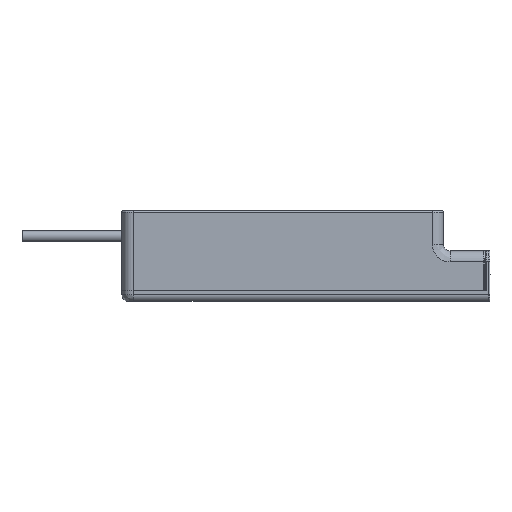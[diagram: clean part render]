
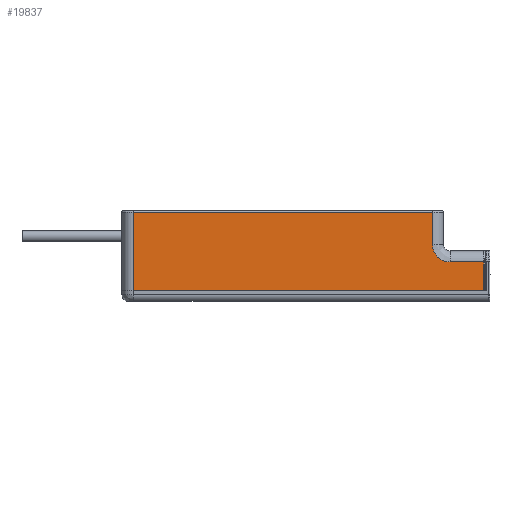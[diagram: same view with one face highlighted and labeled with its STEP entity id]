
A CAD part, front view. The second image highlights one B-rep face of the part: STEP entity #19837.
In plain terms, the highlighted planar face has unit normal (0, -1, 0).
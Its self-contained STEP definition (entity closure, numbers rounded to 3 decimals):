
#927 = VERTEX_POINT ( 'NONE', #1373 ) ;
#1045 = ORIENTED_EDGE ( 'NONE', *, *, #3235, .F. ) ;
#1312 = DIRECTION ( 'NONE',  ( -1., 0., 0. ) ) ;
#1373 = CARTESIAN_POINT ( 'NONE',  ( 67.445, -35.194, 40.564 ) ) ;
#1694 = VECTOR ( 'NONE', #17261, 1000. ) ;
#2393 = VERTEX_POINT ( 'NONE', #14187 ) ;
#2558 = VERTEX_POINT ( 'NONE', #6202 ) ;
#2709 = ORIENTED_EDGE ( 'NONE', *, *, #4259, .F. ) ;
#3052 = AXIS2_PLACEMENT_3D ( 'NONE', #21447, #3377, #1312 ) ;
#3188 = VECTOR ( 'NONE', #17861, 1000. ) ;
#3235 = EDGE_CURVE ( 'NONE', #18754, #2393, #17842, .T. ) ;
#3377 = DIRECTION ( 'NONE',  ( 0., 1., 0. ) ) ;
#3783 = EDGE_CURVE ( 'NONE', #2393, #19304, #6517, .T. ) ;
#4259 = EDGE_CURVE ( 'NONE', #2558, #18754, #18596, .T. ) ;
#4961 = CARTESIAN_POINT ( 'NONE',  ( 75.445, -35.194, 18.064 ) ) ;
#4994 = CARTESIAN_POINT ( 'NONE',  ( 90.645, -35.194, 41.064 ) ) ;
#5063 =( BOUNDED_CURVE ( )  B_SPLINE_CURVE ( 3, ( #15852, #15696, #19228, #4961 ),
 .UNSPECIFIED., .F., .F. ) 
 B_SPLINE_CURVE_WITH_KNOTS ( ( 4, 4 ),
 ( 0., 1. ),
 .UNSPECIFIED. ) 
 CURVE ( )  GEOMETRIC_REPRESENTATION_ITEM ( )  RATIONAL_B_SPLINE_CURVE ( ( 1., 0.805, 0.805, 1. ) ) 
 REPRESENTATION_ITEM ( '' )  );
#5513 = CARTESIAN_POINT ( 'NONE',  ( 67.445, -35.194, 26.064 ) ) ;
#5915 = ORIENTED_EDGE ( 'NONE', *, *, #18467, .F. ) ;
#6202 = CARTESIAN_POINT ( 'NONE',  ( 75.445, -35.194, 18.064 ) ) ;
#6517 = LINE ( 'NONE', #6564, #14662 ) ;
#6564 = CARTESIAN_POINT ( 'NONE',  ( -90.014, -35.194, 5.164 ) ) ;
#6607 = CARTESIAN_POINT ( 'NONE',  ( -72.555, -35.194, 18.064 ) ) ;
#7521 = CARTESIAN_POINT ( 'NONE',  ( -67.555, -35.194, 5.164 ) ) ;
#7600 = VECTOR ( 'NONE', #9184, 1000. ) ;
#8679 = ORIENTED_EDGE ( 'NONE', *, *, #3783, .F. ) ;
#9184 = DIRECTION ( 'NONE',  ( 0., 0., 1. ) ) ;
#9840 = LINE ( 'NONE', #18591, #13815 ) ;
#10770 = CARTESIAN_POINT ( 'NONE',  ( -67.555, -35.194, 41.064 ) ) ;
#10774 = EDGE_CURVE ( 'NONE', #10864, #2558, #5063, .T. ) ;
#10775 = VECTOR ( 'NONE', #11635, 1000. ) ;
#10864 = VERTEX_POINT ( 'NONE', #5513 ) ;
#11635 = DIRECTION ( 'NONE',  ( 0., 0., -1. ) ) ;
#11657 = LINE ( 'NONE', #14445, #3188 ) ;
#12695 = ORIENTED_EDGE ( 'NONE', *, *, #10774, .F. ) ;
#13815 = VECTOR ( 'NONE', #18510, 1000. ) ;
#13838 = ORIENTED_EDGE ( 'NONE', *, *, #22628, .F. ) ;
#14187 = CARTESIAN_POINT ( 'NONE',  ( 90.645, -35.194, 5.164 ) ) ;
#14445 = CARTESIAN_POINT ( 'NONE',  ( -72.555, -35.194, 40.564 ) ) ;
#14628 = CARTESIAN_POINT ( 'NONE',  ( -67.555, -35.194, 40.564 ) ) ;
#14662 = VECTOR ( 'NONE', #19152, 1000. ) ;
#15130 = VERTEX_POINT ( 'NONE', #14628 ) ;
#15696 = CARTESIAN_POINT ( 'NONE',  ( 67.445, -35.194, 21.377 ) ) ;
#15852 = CARTESIAN_POINT ( 'NONE',  ( 67.445, -35.194, 26.064 ) ) ;
#17261 = DIRECTION ( 'NONE',  ( 1., 0., 0. ) ) ;
#17505 = PLANE ( 'NONE',  #3052 ) ;
#17842 = LINE ( 'NONE', #4994, #10775 ) ;
#17861 = DIRECTION ( 'NONE',  ( 1., 0., 0. ) ) ;
#17892 = EDGE_CURVE ( 'NONE', #19304, #15130, #20293, .T. ) ;
#18054 = CARTESIAN_POINT ( 'NONE',  ( 90.645, -35.194, 18.064 ) ) ;
#18305 = ORIENTED_EDGE ( 'NONE', *, *, #17892, .F. ) ;
#18467 = EDGE_CURVE ( 'NONE', #927, #10864, #9840, .T. ) ;
#18510 = DIRECTION ( 'NONE',  ( 0., 0., -1. ) ) ;
#18591 = CARTESIAN_POINT ( 'NONE',  ( 67.445, -35.194, 41.064 ) ) ;
#18596 = LINE ( 'NONE', #6607, #1694 ) ;
#18754 = VERTEX_POINT ( 'NONE', #18054 ) ;
#18838 = EDGE_LOOP ( 'NONE', ( #12695, #5915, #13838, #18305, #8679, #1045, #2709 ) ) ;
#19152 = DIRECTION ( 'NONE',  ( -1., 0., 0. ) ) ;
#19228 = CARTESIAN_POINT ( 'NONE',  ( 70.758, -35.194, 18.064 ) ) ;
#19304 = VERTEX_POINT ( 'NONE', #7521 ) ;
#19837 = ADVANCED_FACE ( 'NONE', ( #22521 ), #17505, .F. ) ;
#20293 = LINE ( 'NONE', #10770, #7600 ) ;
#21447 = CARTESIAN_POINT ( 'NONE',  ( -72.555, -35.194, 41.064 ) ) ;
#22521 = FACE_OUTER_BOUND ( 'NONE', #18838, .T. ) ;
#22628 = EDGE_CURVE ( 'NONE', #15130, #927, #11657, .T. ) ;
